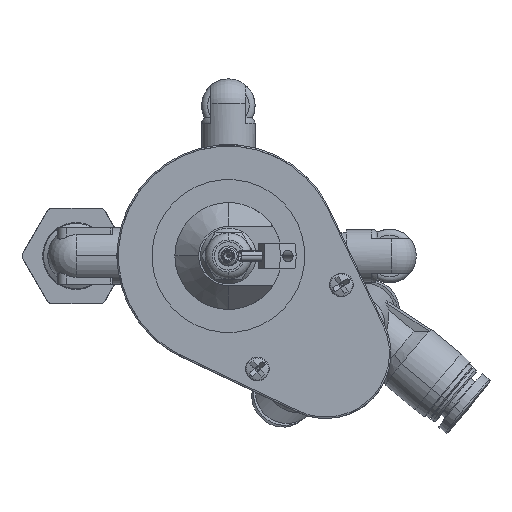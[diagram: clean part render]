
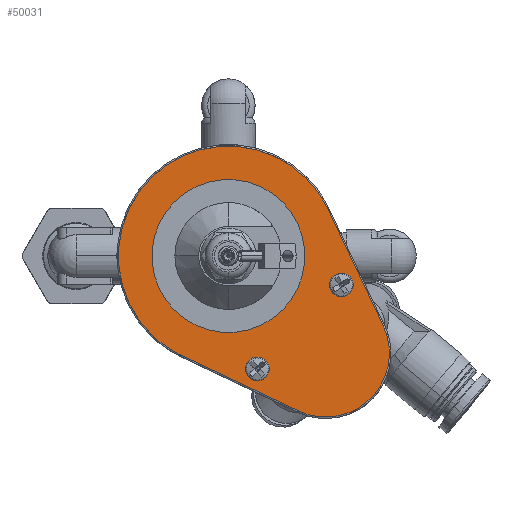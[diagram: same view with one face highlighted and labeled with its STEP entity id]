
A CAD part, front view. The second image highlights one B-rep face of the part: STEP entity #50031.
In plain terms, the highlighted planar face has unit normal (0, -1, 0).
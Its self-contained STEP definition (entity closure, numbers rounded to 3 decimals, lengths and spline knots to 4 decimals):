
#1684 = EDGE_LOOP ( 'NONE', ( #30456, #85831 ) ) ;
#2136 = VERTEX_POINT ( 'NONE', #24591 ) ;
#6127 = AXIS2_PLACEMENT_3D ( 'NONE', #81045, #81707, #30622 ) ;
#6427 = ORIENTED_EDGE ( 'NONE', *, *, #11071, .T. ) ;
#6679 = CIRCLE ( 'NONE', #117587, 0.08 ) ;
#6724 = EDGE_CURVE ( 'NONE', #104671, #68752, #15040, .T. ) ;
#8595 = DIRECTION ( 'NONE',  ( -1., 0., 0. ) ) ;
#11056 = CARTESIAN_POINT ( 'NONE',  ( 0.0001, -1.585, -0.0001 ) ) ;
#11071 = EDGE_CURVE ( 'NONE', #68752, #104671, #68824, .T. ) ;
#11627 = EDGE_CURVE ( 'NONE', #108670, #91702, #81532, .T. ) ;
#11963 = CIRCLE ( 'NONE', #129063, 0.08 ) ;
#13810 = DIRECTION ( 'NONE',  ( -1., 0., 0. ) ) ;
#15040 = CIRCLE ( 'NONE', #109195, 0.515 ) ;
#15860 = EDGE_CURVE ( 'NONE', #71163, #100337, #6679, .T. ) ;
#18779 = CARTESIAN_POINT ( 'NONE',  ( -0.5231, -1.585, -0.5234 ) ) ;
#18885 = DIRECTION ( 'NONE',  ( -1., 0., 0. ) ) ;
#19590 = DIRECTION ( 'NONE',  ( 0., 1., 0. ) ) ;
#19720 = ORIENTED_EDGE ( 'NONE', *, *, #111612, .F. ) ;
#20004 = DIRECTION ( 'NONE',  ( 0., 1., 0. ) ) ;
#20684 = ORIENTED_EDGE ( 'NONE', *, *, #6724, .T. ) ;
#21568 = DIRECTION ( 'NONE',  ( 0.707, 0., 0.707 ) ) ;
#22192 = EDGE_CURVE ( 'NONE', #2136, #103821, #77174, .T. ) ;
#22489 = CARTESIAN_POINT ( 'NONE',  ( 0.5234, -1.585, 0.5231 ) ) ;
#23342 = AXIS2_PLACEMENT_3D ( 'NONE', #32664, #111359, #21568 ) ;
#23957 = EDGE_LOOP ( 'NONE', ( #20684, #6427 ) ) ;
#24591 = CARTESIAN_POINT ( 'NONE',  ( 0.1418, -1.585, -0.7015 ) ) ;
#26496 = ORIENTED_EDGE ( 'NONE', *, *, #15860, .F. ) ;
#28001 = CARTESIAN_POINT ( 'NONE',  ( 0.0001, -1.585, -0.0001 ) ) ;
#30429 = CIRCLE ( 'NONE', #40925, 0.74 ) ;
#30456 = ORIENTED_EDGE ( 'NONE', *, *, #22192, .F. ) ;
#30622 = DIRECTION ( 'NONE',  ( 0.707, 0., 0.707 ) ) ;
#32542 = ORIENTED_EDGE ( 'NONE', *, *, #35859, .F. ) ;
#32664 = CARTESIAN_POINT ( 'NONE',  ( 0.6549, -1.585, -0.6549 ) ) ;
#34485 = CIRCLE ( 'NONE', #124478, 0.08 ) ;
#35380 = CARTESIAN_POINT ( 'NONE',  ( 0.6685, -1.585, 0.3175 ) ) ;
#35859 = EDGE_CURVE ( 'NONE', #60384, #111948, #117526, .T. ) ;
#35920 = CARTESIAN_POINT ( 'NONE',  ( 0.6685, -1.585, 0.3175 ) ) ;
#36057 = ORIENTED_EDGE ( 'NONE', *, *, #42301, .F. ) ;
#40315 = DIRECTION ( 'NONE',  ( 0.707, 0., 0.707 ) ) ;
#40925 = AXIS2_PLACEMENT_3D ( 'NONE', #11056, #19590, #60182 ) ;
#41983 = DIRECTION ( 'NONE',  ( 0., -1., 0. ) ) ;
#42264 = CARTESIAN_POINT ( 'NONE',  ( 0.7172, -1.585, -0.1283 ) ) ;
#42301 = EDGE_CURVE ( 'NONE', #123892, #108670, #123175, .T. ) ;
#43563 = EDGE_LOOP ( 'NONE', ( #26496, #115757 ) ) ;
#44666 = DIRECTION ( 'NONE',  ( 0.707, 0., 0.707 ) ) ;
#45549 = DIRECTION ( 'NONE',  ( 0.707, 0., 0.707 ) ) ;
#45747 = DIRECTION ( 'NONE',  ( 0., 1., 0. ) ) ;
#45957 = DIRECTION ( 'NONE',  ( 0., 1., 0. ) ) ;
#47118 = DIRECTION ( 'NONE',  ( 0., -1., 0. ) ) ;
#48858 = FACE_BOUND ( 'NONE', #43563, .T. ) ;
#49493 = CARTESIAN_POINT ( 'NONE',  ( 0.6549, -1.585, -0.6549 ) ) ;
#50031 = ADVANCED_FACE ( 'NONE', ( #61283, #48858, #110416, #99308 ), #91392, .F. ) ;
#51642 = LINE ( 'NONE', #100818, #77422 ) ;
#52296 = DIRECTION ( 'NONE',  ( -0.903, 0., 0.429 ) ) ;
#56747 = VERTEX_POINT ( 'NONE', #115139 ) ;
#60182 = DIRECTION ( 'NONE',  ( 0.707, 0., 0.707 ) ) ;
#60384 = VERTEX_POINT ( 'NONE', #69713 ) ;
#61283 = FACE_BOUND ( 'NONE', #1684, .T. ) ;
#64185 = CARTESIAN_POINT ( 'NONE',  ( 0.1953, -1.585, -0.761 ) ) ;
#66671 = DIRECTION ( 'NONE',  ( 0.707, 0., 0.707 ) ) ;
#68752 = VERTEX_POINT ( 'NONE', #124468 ) ;
#68824 = CIRCLE ( 'NONE', #6127, 0.515 ) ;
#69713 = CARTESIAN_POINT ( 'NONE',  ( 1.043, -1.585, -0.4705 ) ) ;
#71163 = VERTEX_POINT ( 'NONE', #42264 ) ;
#72199 = ORIENTED_EDGE ( 'NONE', *, *, #79579, .F. ) ;
#72576 = CARTESIAN_POINT ( 'NONE',  ( 0.4705, -1.585, -1.043 ) ) ;
#74114 = CARTESIAN_POINT ( 'NONE',  ( 0.0001, -1.585, -0.0001 ) ) ;
#74180 = CARTESIAN_POINT ( 'NONE',  ( 0.8048, -1.585, -0.2623 ) ) ;
#75317 = DIRECTION ( 'NONE',  ( 0.429, 0., -0.903 ) ) ;
#77174 = CIRCLE ( 'NONE', #100197, 0.08 ) ;
#77211 = CARTESIAN_POINT ( 'NONE',  ( 0.761, -1.585, -0.1953 ) ) ;
#77422 = VECTOR ( 'NONE', #52296, 39.3701 ) ;
#79579 = EDGE_CURVE ( 'NONE', #111948, #56747, #51642, .T. ) ;
#81045 = CARTESIAN_POINT ( 'NONE',  ( 0.0001, -1.585, -0.0001 ) ) ;
#81532 = CIRCLE ( 'NONE', #125456, 0.74 ) ;
#81707 = DIRECTION ( 'NONE',  ( 0., 1., 0. ) ) ;
#84497 = DIRECTION ( 'NONE',  ( 0., -1., 0. ) ) ;
#85831 = ORIENTED_EDGE ( 'NONE', *, *, #121651, .F. ) ;
#87432 = CARTESIAN_POINT ( 'NONE',  ( 0.0001, -1.585, -0.0001 ) ) ;
#87513 = VECTOR ( 'NONE', #75317, 39.3701 ) ;
#89871 = EDGE_LOOP ( 'NONE', ( #32542, #19720, #100949, #36057, #110006, #72199 ) ) ;
#90837 = EDGE_CURVE ( 'NONE', #100337, #71163, #34485, .T. ) ;
#91392 = PLANE ( 'NONE',  #104113 ) ;
#91702 = VERTEX_POINT ( 'NONE', #35920 ) ;
#92441 = CARTESIAN_POINT ( 'NONE',  ( 0.2488, -1.585, -0.8205 ) ) ;
#93054 = EDGE_CURVE ( 'NONE', #56747, #123892, #30429, .T. ) ;
#99308 = FACE_BOUND ( 'NONE', #23957, .T. ) ;
#99633 = DIRECTION ( 'NONE',  ( 0., -1., 0. ) ) ;
#100197 = AXIS2_PLACEMENT_3D ( 'NONE', #64185, #84497, #102896 ) ;
#100337 = VERTEX_POINT ( 'NONE', #74180 ) ;
#100818 = CARTESIAN_POINT ( 'NONE',  ( 0.4705, -1.585, -1.043 ) ) ;
#100949 = ORIENTED_EDGE ( 'NONE', *, *, #11627, .F. ) ;
#102896 = DIRECTION ( 'NONE',  ( -1., 0., 0. ) ) ;
#103821 = VERTEX_POINT ( 'NONE', #92441 ) ;
#104113 = AXIS2_PLACEMENT_3D ( 'NONE', #49493, #20004, #40315 ) ;
#104671 = VERTEX_POINT ( 'NONE', #121286 ) ;
#105190 = DIRECTION ( 'NONE',  ( 0., 1., 0. ) ) ;
#106453 = AXIS2_PLACEMENT_3D ( 'NONE', #87432, #105190, #45549 ) ;
#108670 = VERTEX_POINT ( 'NONE', #22489 ) ;
#109195 = AXIS2_PLACEMENT_3D ( 'NONE', #74114, #45957, #44666 ) ;
#110006 = ORIENTED_EDGE ( 'NONE', *, *, #93054, .F. ) ;
#110416 = FACE_OUTER_BOUND ( 'NONE', #89871, .T. ) ;
#111359 = DIRECTION ( 'NONE',  ( 0., 1., 0. ) ) ;
#111612 = EDGE_CURVE ( 'NONE', #91702, #60384, #125147, .T. ) ;
#111948 = VERTEX_POINT ( 'NONE', #72576 ) ;
#115139 = CARTESIAN_POINT ( 'NONE',  ( -0.3175, -1.585, -0.6685 ) ) ;
#115757 = ORIENTED_EDGE ( 'NONE', *, *, #90837, .F. ) ;
#117526 = CIRCLE ( 'NONE', #23342, 0.4296 ) ;
#117587 = AXIS2_PLACEMENT_3D ( 'NONE', #77211, #47118, #18885 ) ;
#119923 = CARTESIAN_POINT ( 'NONE',  ( 0.761, -1.585, -0.1953 ) ) ;
#121286 = CARTESIAN_POINT ( 'NONE',  ( -0.364, -1.585, -0.3643 ) ) ;
#121651 = EDGE_CURVE ( 'NONE', #103821, #2136, #11963, .T. ) ;
#123175 = CIRCLE ( 'NONE', #106453, 0.74 ) ;
#123204 = CARTESIAN_POINT ( 'NONE',  ( 0.1953, -1.585, -0.761 ) ) ;
#123892 = VERTEX_POINT ( 'NONE', #18779 ) ;
#124468 = CARTESIAN_POINT ( 'NONE',  ( 0.3643, -1.585, 0.364 ) ) ;
#124478 = AXIS2_PLACEMENT_3D ( 'NONE', #119923, #99633, #8595 ) ;
#125147 = LINE ( 'NONE', #35380, #87513 ) ;
#125456 = AXIS2_PLACEMENT_3D ( 'NONE', #28001, #45747, #66671 ) ;
#129063 = AXIS2_PLACEMENT_3D ( 'NONE', #123204, #41983, #13810 ) ;
